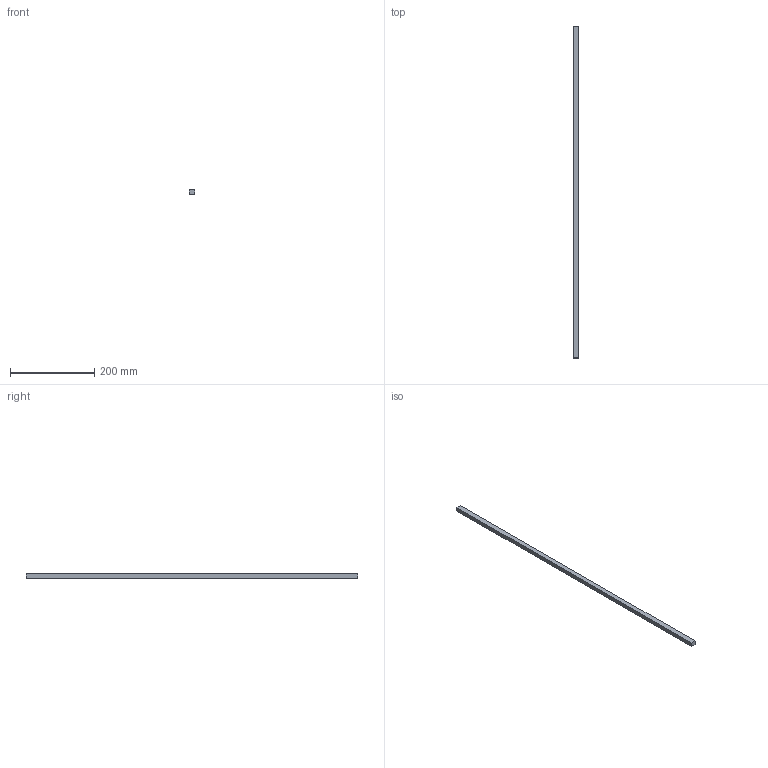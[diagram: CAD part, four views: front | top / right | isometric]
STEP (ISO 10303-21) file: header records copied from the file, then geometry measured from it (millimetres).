
FILE_DESCRIPTION (( 'STEP AP203' ), '1' );
FILE_NAME ('DN51389.STEP', '2025-10-31T07:31:09', ( '' ), ( '' ), 'SwSTEP 2.0', 'SolidWorks 2019', '' );
FILE_SCHEMA (( 'CONFIG_CONTROL_DESIGN' ));
Length unit declared in the file: millimetre
Products named in the file (1): DN51389
Bounding box: 12 x 790 x 10 mm (x, y, z)
Volume: 94800 mm3; surface area: 35000 mm2
Topology: 1 solids, 1 shells, 6 faces, 12 edges, 8 vertices
Faces by surface type: plane 6
Entity records: 233 total; most frequent: CARTESIAN_POINT 27, DIRECTION 26, ORIENTED_EDGE 24, EDGE_CURVE 12, VECTOR 12, LINE 12, PERSON_AND_ORGANIZATION 8, VERTEX_POINT 8
